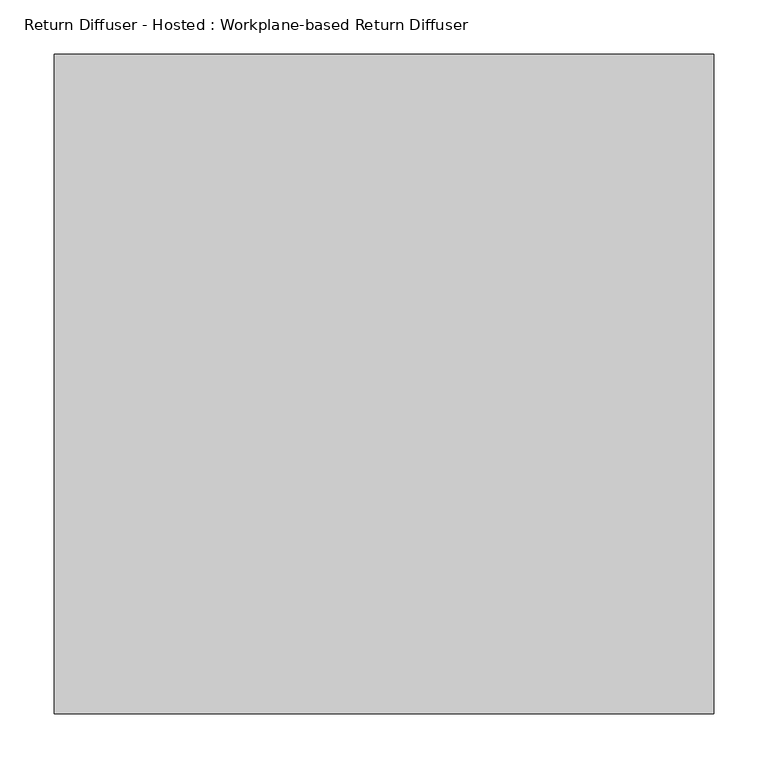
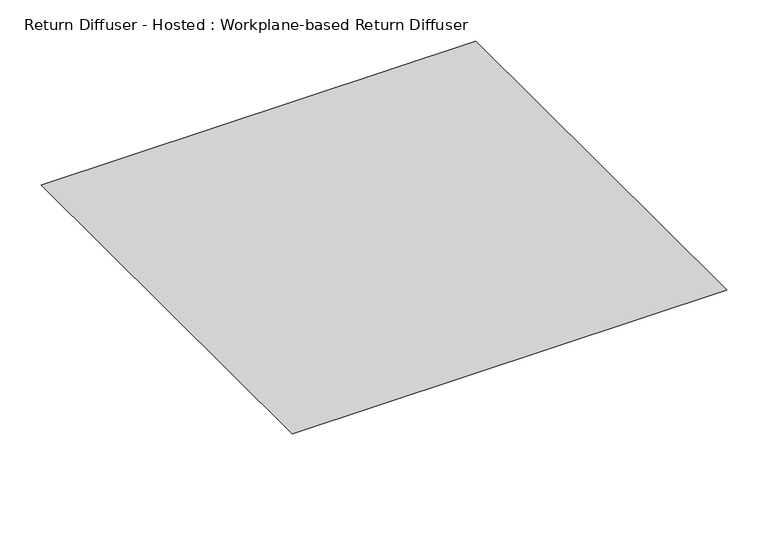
"""IFC4 building model written with IfcOpenShell, lengths in millimetres: air terminal geometry, Return Diffuser - Hosted : Workplane-based Return Diffuser."""

import ifcopenshell
import ifcopenshell.guid

model = None  # the IFC model being written
_history = None  # IfcOwnerHistory: only IFC2X3 demands one
_inside = {}  # id of a spatial element -> (the spatial element, [elements in it])
_under = {}  # id of a project, library or spatial element -> (it, [spatial elements below it])
_declared = {}  # id of a project -> (the project, [libraries it declares])
_typed = {}  # id of a type object -> (the type object, [elements of that type])
_made_of = {}  # id of a material, layer set ... -> (it, [elements and type objects made of it])


def new_model(schema):
    """Start an empty IFC model of exactly this schema.

    Asked for "IFC4X3", IfcOpenShell would pick the latest addendum, in which some entities
    have other attributes; the version numbers below select the first issue.
    IFC2X3 requires an IfcOwnerHistory on every rooted entity: one is made here for all.
    """
    global model, _history
    if schema == "IFC4X3":
        model = ifcopenshell.file(schema_version=(4, 3, 0, 0))
    else:
        model = ifcopenshell.file(schema=schema)
    _inside.clear()
    _under.clear()
    _declared.clear()
    _typed.clear()
    _made_of.clear()
    _history = None
    if model.schema == "IFC2X3":
        org = make("IfcOrganization", Name="unknown")
        user = make(
            "IfcPersonAndOrganization",
            ThePerson=make("IfcPerson", FamilyName="unknown"),
            TheOrganization=org,
        )
        app = make(
            "IfcApplication",
            ApplicationDeveloper=org,
            Version="unknown",
            ApplicationFullName="unknown",
            ApplicationIdentifier="unknown",
        )
        _history = make(
            "IfcOwnerHistory",
            OwningUser=user,
            OwningApplication=app,
            ChangeAction="ADDED",
            CreationDate=0,
        )
    return model


def make(cls, **values):
    """One entity of the class cls with the attributes given. An attribute that is None is left unset."""
    return model.create_entity(
        cls, **{name: value for name, value in values.items() if value is not None}
    )


def rooted(cls, **values):
    """An entity with a GlobalId (a new one), such as an element, a storey or a relation."""
    return make(cls, GlobalId=ifcopenshell.guid.new(), OwnerHistory=_history, **values)


def si_unit(unit_type, name, prefix=None):
    """IfcSIUnit, for example si_unit("LENGTHUNIT", "METRE", prefix="MILLI")."""
    return make("IfcSIUnit", UnitType=unit_type, Prefix=prefix, Name=name)


def assignment(units):
    """IfcUnitAssignment: the units of a project."""
    return None if units is None else make("IfcUnitAssignment", Units=units)


def point(xyz):
    """IfcCartesianPoint."""
    return None if xyz is None else make("IfcCartesianPoint", Coordinates=xyz)


def direction(xyz):
    """IfcDirection."""
    return None if xyz is None else make("IfcDirection", DirectionRatios=xyz)


def frame(location, z_axis=None, x_axis=None):
    """IfcAxis2Placement3D, a coordinate frame: its origin and axes. An axis left out is left unset."""
    return make(
        "IfcAxis2Placement3D",
        Location=point(location),
        Axis=direction(z_axis),
        RefDirection=direction(x_axis),
    )


def origin():
    """The frame at (0, 0, 0) with its axes left unset."""
    return frame((0.0, 0.0, 0.0))


def place(relative_to, where):
    """IfcLocalPlacement: puts the frame where relative to a parent placement (None: the world)."""
    return make(
        "IfcLocalPlacement", PlacementRelTo=relative_to, RelativePlacement=where
    )


def context(
    kind, dimensions, precision=None, world=None, true_north=None, identifier=None
):
    """IfcGeometricRepresentationContext, for example the 3D "Model" context."""
    return make(
        "IfcGeometricRepresentationContext",
        ContextIdentifier=identifier,
        ContextType=kind,
        CoordinateSpaceDimension=dimensions,
        Precision=precision,
        WorldCoordinateSystem=world,
        TrueNorth=true_north,
    )


def project(units=None, contexts=None):
    """IfcProject with its units and contexts."""
    return rooted(
        "IfcProject",
        Name="project",
        RepresentationContexts=contexts,
        UnitsInContext=assignment(units),
    )


def spatial(cls, under=None, at=None, **own):
    """A site, building, storey or space (cls), placed at a placement, below another one or the project."""
    s = rooted(cls, ObjectPlacement=at, **own)
    if under is not None:
        _under.setdefault(under.id(), (under, []))[1].append(s)
    return s


def faces_of(points, faces, orient=None, outer=None):
    """IfcFace entities. A face is a list of loops; a loop is a list of indices into points, from 0.

    orient and outer hold one flag for each loop. By default every Orientation is true, the
    first loop of a face is its IfcFaceOuterBound and the others are IfcFaceBound.
    """
    made = []
    for i, loops in enumerate(faces):
        bounds = []
        for j, loop in enumerate(loops):
            is_outer = j == 0 if outer is None else outer[i][j]
            bounds.append(
                make(
                    "IfcFaceOuterBound" if is_outer else "IfcFaceBound",
                    Bound=make("IfcPolyLoop", Polygon=[points[k] for k in loop]),
                    Orientation=True if orient is None else orient[i][j],
                )
            )
        made.append(make("IfcFace", Bounds=bounds))
    return made


def faceted_brep(points, faces, orient=None, outer=None, voids=None):
    """IfcFacetedBrep: a solid bounded by flat faces; with voids (closed shells), ...WithVoids."""
    shared = [point(p) for p in points]
    hull = make("IfcClosedShell", CfsFaces=faces_of(shared, faces, orient, outer))
    if voids is None:
        return make("IfcFacetedBrep", Outer=hull)
    return make(
        "IfcFacetedBrepWithVoids",
        Outer=hull,
        Voids=[
            make(cls, CfsFaces=faces_of(shared, fs, o, b)) for cls, fs, o, b in voids
        ],
    )


def shape(context_of_items, identifier, shape_type, items):
    """IfcShapeRepresentation: the items that make up one representation, for example the "Body"."""
    return make(
        "IfcShapeRepresentation",
        ContextOfItems=context_of_items,
        RepresentationIdentifier=identifier,
        RepresentationType=shape_type,
        Items=items,
    )


def source(mapping_origin, context_of_items, identifier, shape_type, items):
    """IfcRepresentationMap: a shape defined once, which mapped items show again and again."""
    return make(
        "IfcRepresentationMap",
        MappingOrigin=mapping_origin,
        MappedRepresentation=shape(context_of_items, identifier, shape_type, items),
    )


def transform(
    local_origin,
    x_axis=None,
    y_axis=None,
    z_axis=None,
    scale=None,
    scale2=None,
    scale3=None,
    uniform=True,
):
    """IfcCartesianTransformationOperator3D, or its non-uniform kind. x_axis, y_axis, z_axis: its Axis1, 2, 3."""
    if uniform:
        return make(
            "IfcCartesianTransformationOperator3D",
            Axis1=direction(x_axis),
            Axis2=direction(y_axis),
            LocalOrigin=point(local_origin),
            Scale=scale,
            Axis3=direction(z_axis),
        )
    return make(
        "IfcCartesianTransformationOperator3DnonUniform",
        Axis1=direction(x_axis),
        Axis2=direction(y_axis),
        LocalOrigin=point(local_origin),
        Scale=scale,
        Axis3=direction(z_axis),
        Scale2=scale2,
        Scale3=scale3,
    )


def mapped(mapping_source, mapping_target):
    """IfcMappedItem: shows the shape of a source again, moved by a transform."""
    return make(
        "IfcMappedItem", MappingSource=mapping_source, MappingTarget=mapping_target
    )


def made_of(thing, what):
    """Note that an element or type object is made of a material, layer set ...; save() writes the relation."""
    if what is not None:
        _made_of.setdefault(what.id(), (what, []))[1].append(thing)
    return thing


def element(
    cls,
    number,
    at=None,
    inside=None,
    cuts=None,
    type_object=None,
    material=None,
    context=None,
    identifier="Body",
    shape_type=None,
    held_by="IfcProductDefinitionShape",
    body=None,
    shapes=None,
    **own,
):
    """One element of the class cls, such as IfcWall. Its Tag is "e" and its number.

    at: its placement. inside: the storey or other place that contains it. cuts: it is an
    opening in that element (IfcRelVoidsElement). A single representation is given by context,
    identifier, shape_type and body (its items); several are given by shapes. held_by: the class
    of the entity that holds the representations. save() writes the other relations.
    """
    e = rooted(cls, Tag="e%d" % number, ObjectPlacement=at, **own)
    if body is not None:
        shapes = [shape(context, identifier, shape_type, body)]
    if shapes is not None:
        e.Representation = make(held_by, Representations=shapes)
    if inside is not None:
        _inside.setdefault(inside.id(), (inside, []))[1].append(e)
    if cuts is not None:
        rooted(
            "IfcRelVoidsElement", RelatingBuildingElement=cuts, RelatedOpeningElement=e
        )
    if type_object is not None:
        _typed.setdefault(type_object.id(), (type_object, []))[1].append(e)
    return made_of(e, material)


def aggregate(whole, parts):
    """IfcRelAggregates: a whole, such as a stair, and the parts it consists of."""
    return rooted("IfcRelAggregates", RelatingObject=whole, RelatedObjects=parts)


def save(model, path):
    """Write the relations noted so far, then the file.

    IfcRelAggregates (storeys below a building ...), IfcRelContainedInSpatialStructure (elements
    in a storey), IfcRelDefinesByType, IfcRelAssociatesMaterial and IfcRelDeclares: one each for
    every whole, place, type object, material and project.
    """
    for whole, parts in _under.values():
        aggregate(whole, parts)
    for where, things in _inside.values():
        rooted(
            "IfcRelContainedInSpatialStructure",
            RelatedElements=things,
            RelatingStructure=where,
        )
    for kind, things in _typed.values():
        rooted("IfcRelDefinesByType", RelatedObjects=things, RelatingType=kind)
    for what, things in _made_of.values():
        rooted("IfcRelAssociatesMaterial", RelatedObjects=things, RelatingMaterial=what)
    for by, libraries in _declared.values():
        rooted("IfcRelDeclares", RelatingContext=by, RelatedDefinitions=libraries)
    model.write(path)


def return_diffuser_hosted_workplane_based_return_diffuser_7695a80a(model_context):
    return source(origin(), model_context, "Body", "Brep", [
        faceted_brep([(304.8, 304.8, 0.0), (-304.8, 304.8, 0.0), (-304.8, -304.8, 0.0), (304.8, -304.8, 0.0), (152.4, 152.4, -101.8523776), (152.4, -152.4, -101.8523776), (-152.4, -152.4, -101.8523776), (-152.4, 152.4, -101.8523776)], [[[0, 1, 2, 3]], [[4, 5, 6, 7]], [[4, 7, 1, 0]], [[7, 6, 2, 1]], [[6, 5, 3, 2]], [[5, 4, 0, 3]]]),
    ])


if __name__ == "__main__":
    model = new_model("IFC4")
    model_context = context("Model", 3, world=origin())
    ifc_project = project(units=[si_unit("LENGTHUNIT", "METRE", prefix="MILLI")], contexts=[model_context])
    site = spatial("IfcSite", under=ifc_project)
    building = spatial("IfcBuilding", under=site)
    placement = place(None, origin())
    return_diffuser_hosted_workplane_based_return_diffuser_shape = return_diffuser_hosted_workplane_based_return_diffuser_7695a80a(model_context)
    element("IfcAirTerminal", 1, ObjectType="Return Diffuser - Hosted : Workplane-based Return Diffuser", at=placement, inside=building, context=model_context, shape_type="MappedRepresentation", body=[
        mapped(return_diffuser_hosted_workplane_based_return_diffuser_shape, transform((0.0, 0.0, 0.0), x_axis=(1.0, 0.0, 0.0), y_axis=(0.0, 1.0, 0.0), z_axis=(0.0, 0.0, 1.0))),
    ])
    save(model, "model.ifc")
